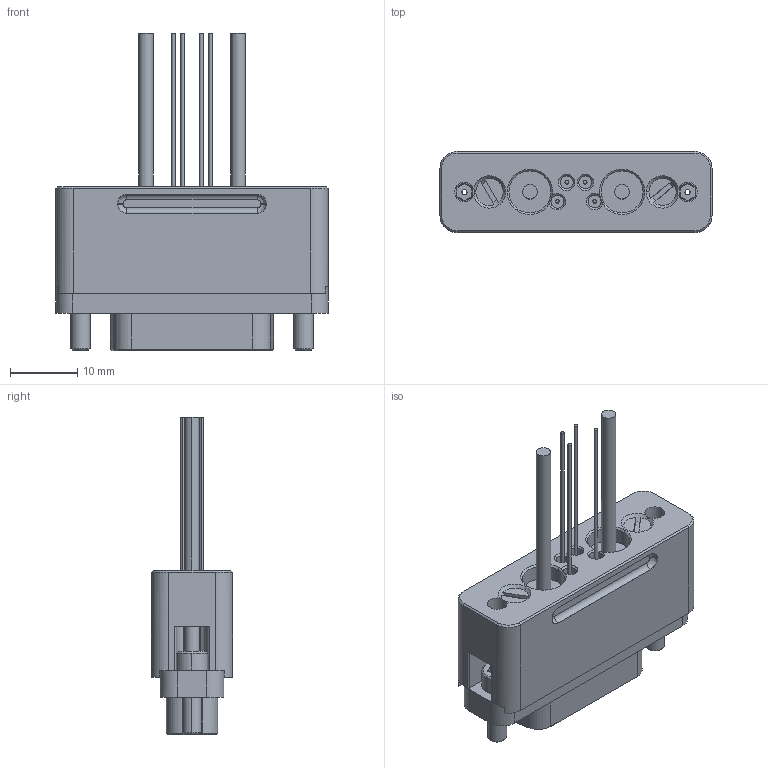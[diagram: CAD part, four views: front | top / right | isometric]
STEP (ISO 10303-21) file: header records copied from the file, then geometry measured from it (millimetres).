
FILE_DESCRIPTION (( 'STEP AP203' ), '1' );
FILE_NAME ('100820.stp', '2015-05-04T22:49:58', ( '' ), ( '' ), 'SwSTEP 2.0', 'SolidWorks 2012', '' );
FILE_SCHEMA (( 'CONFIG_CONTROL_DESIGN' ));
Length unit declared in the file: centimetre
Products named in the file (1): 100820
Bounding box: 40.51 x 12.06 x 47.19 mm (x, y, z)
Volume: 9021.1 mm3; surface area: 5306.5 mm2
Topology: 1 solids, 5 shells, 369 faces, 852 edges, 516 vertices
Faces by surface type: cylinder 160, plane 102, cone 61, bspline 46
Entity records: 17282 total; most frequent: CARTESIAN_POINT 8990, DIRECTION 1771, ORIENTED_EDGE 1664, EDGE_CURVE 832, AXIS2_PLACEMENT_3D 703, VERTEX_POINT 512, EDGE_LOOP 416, CIRCLE 379
